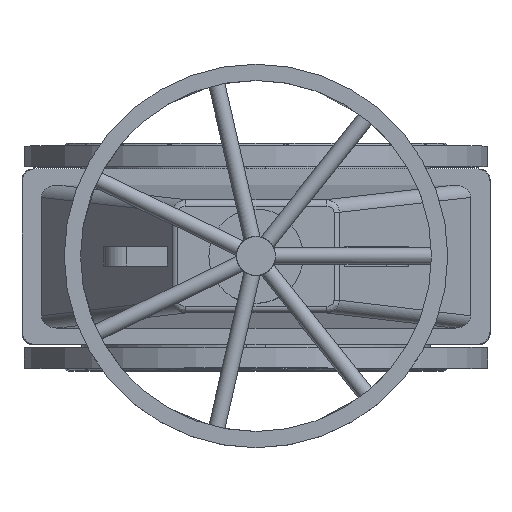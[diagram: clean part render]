
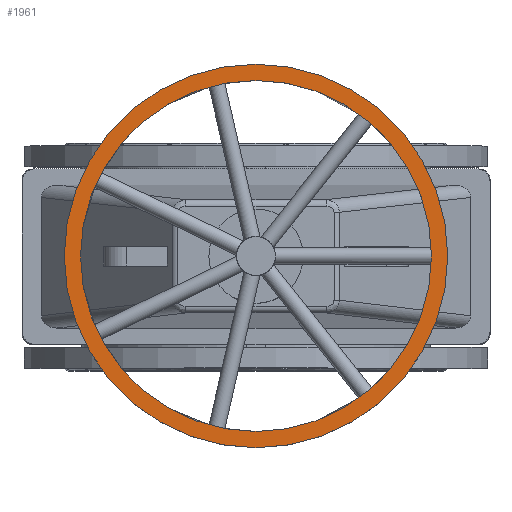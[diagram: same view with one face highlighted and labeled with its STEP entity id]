
A CAD part, top view. The second image highlights one B-rep face of the part: STEP entity #1961.
In plain terms, the highlighted planar face has unit normal (0, 0, 1).
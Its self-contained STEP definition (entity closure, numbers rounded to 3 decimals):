
#1961=ADVANCED_FACE('',(#4820,#4822),#4824,.T.);
#4820=FACE_BOUND('',#4821,.T.);
#4821=EDGE_LOOP('',(#6065));
#4822=FACE_BOUND('',#4823,.T.);
#4823=EDGE_LOOP('',(#6066));
#4824=PLANE('',#4825);
#4825=AXIS2_PLACEMENT_3D('',#4826,#4827,#4828);
#4826=CARTESIAN_POINT('',(0.,0.,1113.5));
#4827=DIRECTION('',(0.,0.,1.));
#4828=DIRECTION('',(0.,-1.,0.));
#6065=ORIENTED_EDGE('',*,*,#6681,.T.);
#6066=ORIENTED_EDGE('',*,*,#6679,.T.);
#6679=EDGE_CURVE('',#7719,#7719,#7720,.F.);
#6681=EDGE_CURVE('',#7723,#7723,#7724,.T.);
#7719=VERTEX_POINT('',#14720);
#7720=CIRCLE('',#14721,270.);
#7723=VERTEX_POINT('',#14730);
#7724=CIRCLE('',#14731,295.);
#14720=CARTESIAN_POINT('',(0.,-270.,1113.5));
#14721=AXIS2_PLACEMENT_3D('',#14722,#14723,#14724);
#14722=CARTESIAN_POINT('',(0.,0.,1113.5));
#14723=DIRECTION('',(0.,0.,1.));
#14724=DIRECTION('',(0.,-1.,0.));
#14730=CARTESIAN_POINT('',(0.,-295.,1113.5));
#14731=AXIS2_PLACEMENT_3D('',#14732,#14733,#14734);
#14732=CARTESIAN_POINT('',(0.,0.,1113.5));
#14733=DIRECTION('',(0.,0.,1.));
#14734=DIRECTION('',(0.,-1.,0.));
